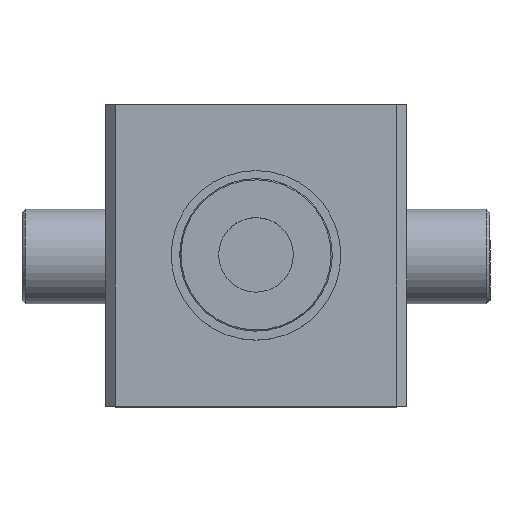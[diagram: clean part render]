
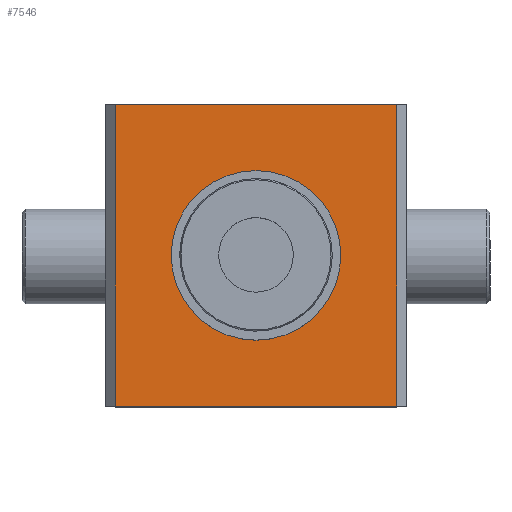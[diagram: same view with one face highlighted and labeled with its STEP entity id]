
A CAD part, top view. The second image highlights one B-rep face of the part: STEP entity #7546.
In plain terms, the highlighted planar face has unit normal (0, 0, 1).
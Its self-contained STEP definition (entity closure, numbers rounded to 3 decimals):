
#1158 = VECTOR ( 'NONE', #6324, 1000. ) ;
#1210 = CARTESIAN_POINT ( 'NONE',  ( 0., 0., 37. ) ) ;
#1588 = VECTOR ( 'NONE', #11960, 1000. ) ;
#1870 = VECTOR ( 'NONE', #2637, 1000. ) ;
#1923 = EDGE_CURVE ( 'NONE', #20050, #13751, #9899, .T. ) ;
#2397 = CARTESIAN_POINT ( 'NONE',  ( -41.5, -44.5, 37. ) ) ;
#2590 = CARTESIAN_POINT ( 'NONE',  ( -41.5, -44.5, 37. ) ) ;
#2637 = DIRECTION ( 'NONE',  ( 0., -1., 0. ) ) ;
#2792 = DIRECTION ( 'NONE',  ( 1., 0., 0. ) ) ;
#4124 = ORIENTED_EDGE ( 'NONE', *, *, #11793, .T. ) ;
#4749 = CARTESIAN_POINT ( 'NONE',  ( 25., 0., 37. ) ) ;
#5635 = AXIS2_PLACEMENT_3D ( 'NONE', #15968, #15873, #15829 ) ;
#6149 = CARTESIAN_POINT ( 'NONE',  ( -25., 0., 37. ) ) ;
#6324 = DIRECTION ( 'NONE',  ( -1., 0., 0. ) ) ;
#6849 = CARTESIAN_POINT ( 'NONE',  ( -44.5, -44.5, 37. ) ) ;
#6856 = ORIENTED_EDGE ( 'NONE', *, *, #1923, .T. ) ;
#6898 = CARTESIAN_POINT ( 'NONE',  ( -44.5, 44.5, 37. ) ) ;
#7086 = FACE_BOUND ( 'NONE', #9071, .T. ) ;
#7546 = ADVANCED_FACE ( 'NONE', ( #11747, #7086 ), #16008, .T. ) ;
#7681 = EDGE_CURVE ( 'NONE', #11676, #9714, #9724, .T. ) ;
#7994 = CARTESIAN_POINT ( 'NONE',  ( 41.5, 44.5, 37. ) ) ;
#8385 = DIRECTION ( 'NONE',  ( 1., 0., 0. ) ) ;
#8753 = AXIS2_PLACEMENT_3D ( 'NONE', #9738, #9718, #9643 ) ;
#8772 = CARTESIAN_POINT ( 'NONE',  ( 41.5, 44.5, 37. ) ) ;
#9071 = EDGE_LOOP ( 'NONE', ( #12924, #19949 ) ) ;
#9643 = DIRECTION ( 'NONE',  ( 1., 0., 0. ) ) ;
#9714 = VERTEX_POINT ( 'NONE', #6149 ) ;
#9718 = DIRECTION ( 'NONE',  ( 0., 0., 1. ) ) ;
#9724 = CIRCLE ( 'NONE', #8753, 25. ) ;
#9735 = ORIENTED_EDGE ( 'NONE', *, *, #18255, .T. ) ;
#9738 = CARTESIAN_POINT ( 'NONE',  ( 0., 0., 37. ) ) ;
#9899 = LINE ( 'NONE', #8772, #1588 ) ;
#10833 = VERTEX_POINT ( 'NONE', #14664 ) ;
#10890 = EDGE_LOOP ( 'NONE', ( #20209, #4124, #9735, #6856 ) ) ;
#11513 = EDGE_CURVE ( 'NONE', #13751, #10833, #13690, .T. ) ;
#11676 = VERTEX_POINT ( 'NONE', #4749 ) ;
#11747 = FACE_OUTER_BOUND ( 'NONE', #10890, .T. ) ;
#11793 = EDGE_CURVE ( 'NONE', #10833, #14018, #20002, .T. ) ;
#11960 = DIRECTION ( 'NONE',  ( 0., 1., 0. ) ) ;
#12177 = DIRECTION ( 'NONE',  ( 0., 0., 1. ) ) ;
#12924 = ORIENTED_EDGE ( 'NONE', *, *, #15526, .F. ) ;
#13135 = LINE ( 'NONE', #6849, #18552 ) ;
#13690 = LINE ( 'NONE', #6898, #1158 ) ;
#13751 = VERTEX_POINT ( 'NONE', #7994 ) ;
#14018 = VERTEX_POINT ( 'NONE', #2397 ) ;
#14664 = CARTESIAN_POINT ( 'NONE',  ( -41.5, 44.5, 37. ) ) ;
#15314 = CARTESIAN_POINT ( 'NONE',  ( 41.5, -44.5, 37. ) ) ;
#15526 = EDGE_CURVE ( 'NONE', #9714, #11676, #19425, .T. ) ;
#15829 = DIRECTION ( 'NONE',  ( 1., 0., 0. ) ) ;
#15873 = DIRECTION ( 'NONE',  ( 0., 0., 1. ) ) ;
#15968 = CARTESIAN_POINT ( 'NONE',  ( 0., 0., 37. ) ) ;
#16008 = PLANE ( 'NONE',  #5635 ) ;
#18255 = EDGE_CURVE ( 'NONE', #14018, #20050, #13135, .T. ) ;
#18552 = VECTOR ( 'NONE', #8385, 1000. ) ;
#19425 = CIRCLE ( 'NONE', #19454, 25. ) ;
#19454 = AXIS2_PLACEMENT_3D ( 'NONE', #1210, #12177, #2792 ) ;
#19949 = ORIENTED_EDGE ( 'NONE', *, *, #7681, .F. ) ;
#20002 = LINE ( 'NONE', #2590, #1870 ) ;
#20050 = VERTEX_POINT ( 'NONE', #15314 ) ;
#20209 = ORIENTED_EDGE ( 'NONE', *, *, #11513, .T. ) ;
